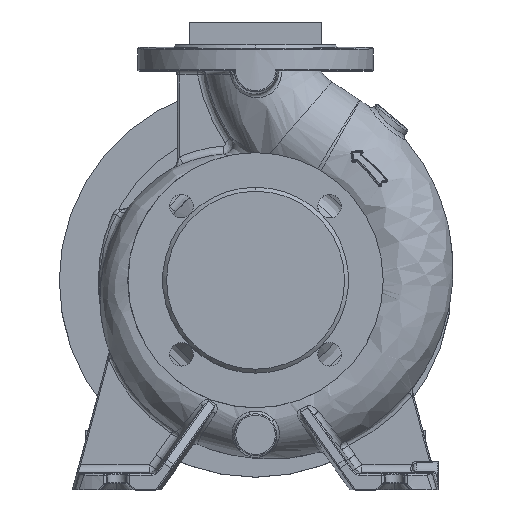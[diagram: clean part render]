
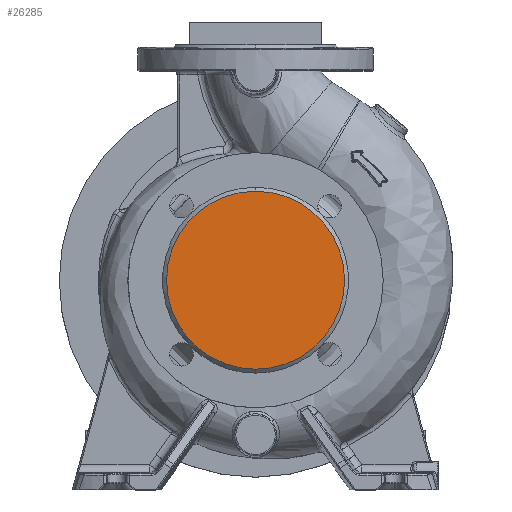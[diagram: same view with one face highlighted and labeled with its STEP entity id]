
A CAD part, top view. The second image highlights one B-rep face of the part: STEP entity #26285.
In plain terms, the highlighted planar face has unit normal (0, 0, 1).
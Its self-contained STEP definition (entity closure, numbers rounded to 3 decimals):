
#422 = EDGE_CURVE ( 'NONE', #22224, #23873, #58156, .T. ) ;
#2865 = CARTESIAN_POINT ( 'NONE',  ( 0., 0., 100. ) ) ;
#3396 = CARTESIAN_POINT ( 'NONE',  ( 0., 68., 100. ) ) ;
#7040 = DIRECTION ( 'NONE',  ( 0., 0., -1. ) ) ;
#7980 = DIRECTION ( 'NONE',  ( 0., 0., -1. ) ) ;
#8471 = ORIENTED_EDGE ( 'NONE', *, *, #422, .F. ) ;
#9249 = EDGE_LOOP ( 'NONE', ( #8471, #31255 ) ) ;
#9604 = AXIS2_PLACEMENT_3D ( 'NONE', #26191, #7980, #44294 ) ;
#13785 = EDGE_CURVE ( 'NONE', #23873, #22224, #21150, .T. ) ;
#16440 = PLANE ( 'NONE',  #18482 ) ;
#18482 = AXIS2_PLACEMENT_3D ( 'NONE', #2865, #7040, #53172 ) ;
#21150 = CIRCLE ( 'NONE', #9604, 68. ) ;
#22224 = VERTEX_POINT ( 'NONE', #3396 ) ;
#23873 = VERTEX_POINT ( 'NONE', #47571 ) ;
#24919 = CARTESIAN_POINT ( 'NONE',  ( 0., 0., 100. ) ) ;
#26191 = CARTESIAN_POINT ( 'NONE',  ( 0., 0., 100. ) ) ;
#26285 = ADVANCED_FACE ( 'NONE', ( #40422 ), #16440, .F. ) ;
#29868 = DIRECTION ( 'NONE',  ( 0., 0., -1. ) ) ;
#31255 = ORIENTED_EDGE ( 'NONE', *, *, #13785, .F. ) ;
#39618 = AXIS2_PLACEMENT_3D ( 'NONE', #24919, #29868, #52828 ) ;
#40422 = FACE_OUTER_BOUND ( 'NONE', #9249, .T. ) ;
#44294 = DIRECTION ( 'NONE',  ( 0., 1., 0. ) ) ;
#47571 = CARTESIAN_POINT ( 'NONE',  ( 0., -68., 100. ) ) ;
#52828 = DIRECTION ( 'NONE',  ( 0., 1., 0. ) ) ;
#53172 = DIRECTION ( 'NONE',  ( 0., 1., 0. ) ) ;
#58156 = CIRCLE ( 'NONE', #39618, 68. ) ;
